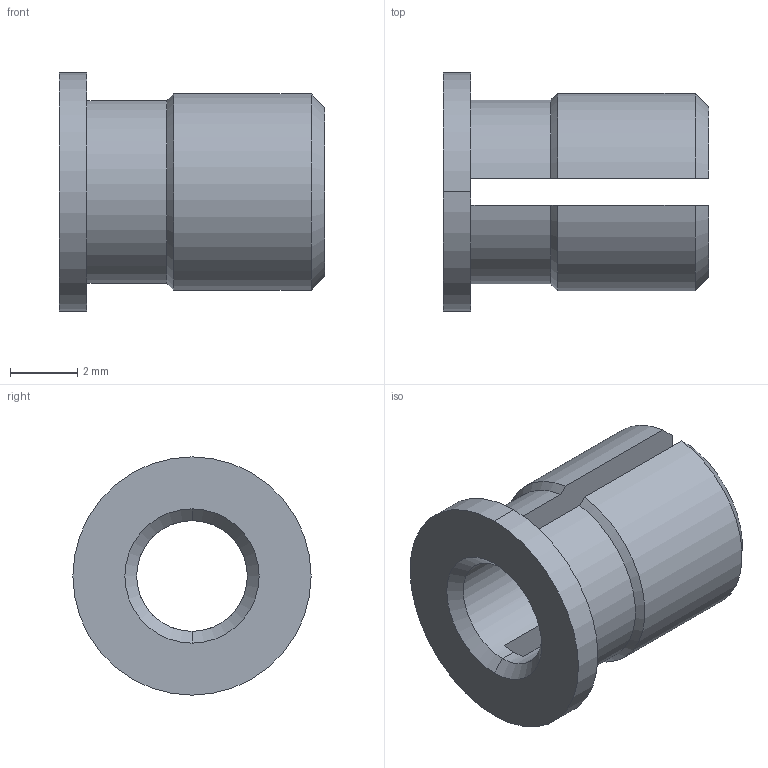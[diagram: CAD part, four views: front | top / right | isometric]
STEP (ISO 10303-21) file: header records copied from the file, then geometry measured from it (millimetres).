
FILE_DESCRIPTION (( 'STEP AP203' ), '1' );
FILE_NAME ('FSUK-EXPH-M04-S.STEP', '2021-04-15T14:58:54', ( '' ), ( '' ), 'SwSTEP 2.0', 'SolidWorks 2021', '' );
FILE_SCHEMA (( 'CONFIG_CONTROL_DESIGN' ));
Length unit declared in the file: millimetre
Products named in the file (1): FSUK-EXPH-M04-S
Bounding box: 7.9 x 7.1 x 7.1 mm (x, y, z)
Volume: 133 mm3; surface area: 299.3 mm2
Topology: 1 solids, 1 shells, 24 faces, 64 edges, 42 vertices
Faces by surface type: cylinder 8, cone 8, plane 8
Entity records: 851 total; most frequent: CARTESIAN_POINT 167, DIRECTION 128, ORIENTED_EDGE 128, EDGE_CURVE 64, AXIS2_PLACEMENT_3D 51, VERTEX_POINT 42, VECTOR 26, CIRCLE 26
